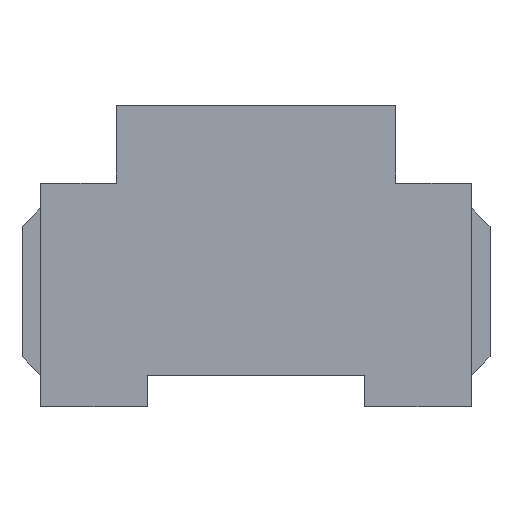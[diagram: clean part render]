
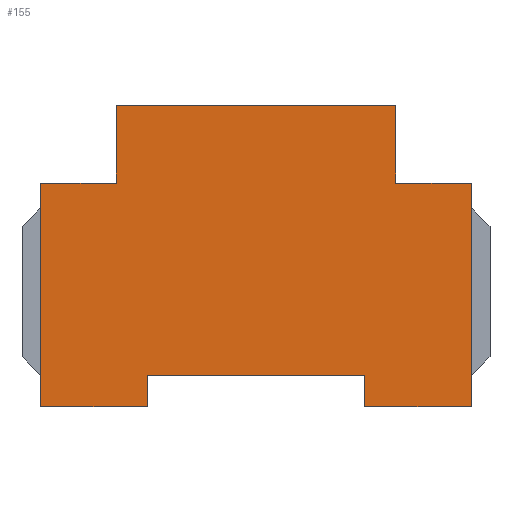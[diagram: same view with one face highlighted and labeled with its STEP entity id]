
A CAD part, left-side view. The second image highlights one B-rep face of the part: STEP entity #155.
In plain terms, the highlighted planar face has unit normal (-1, 0, 0).
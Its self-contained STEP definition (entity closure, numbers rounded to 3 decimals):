
#155=ADVANCED_FACE('',(#318),#319,.T.);
#318=FACE_OUTER_BOUND('',#456,.T.);
#319=PLANE('',#457);
#456=EDGE_LOOP('',(#916,#917,#918,#919,#920,#921,#922,#923,#924,#925,#926,#927));
#457=AXIS2_PLACEMENT_3D('',#928,#929,#930);
#916=ORIENTED_EDGE('',*,*,#1092,.F.);
#917=ORIENTED_EDGE('',*,*,#1118,.F.);
#918=ORIENTED_EDGE('',*,*,#1028,.F.);
#919=ORIENTED_EDGE('',*,*,#1116,.F.);
#920=ORIENTED_EDGE('',*,*,#1113,.F.);
#921=ORIENTED_EDGE('',*,*,#1110,.F.);
#922=ORIENTED_EDGE('',*,*,#1107,.F.);
#923=ORIENTED_EDGE('',*,*,#1104,.F.);
#924=ORIENTED_EDGE('',*,*,#1060,.F.);
#925=ORIENTED_EDGE('',*,*,#1102,.F.);
#926=ORIENTED_EDGE('',*,*,#1099,.F.);
#927=ORIENTED_EDGE('',*,*,#1096,.F.);
#928=CARTESIAN_POINT('',(-7.25,0.,17.836));
#929=DIRECTION('',(-1.0,0.0,0.));
#930=DIRECTION('',(0.,0.0,1.0));
#1028=EDGE_CURVE('',#1236,#1237,#1238,.T.);
#1060=EDGE_CURVE('',#1295,#1296,#1297,.T.);
#1092=EDGE_CURVE('',#1344,#1345,#1346,.T.);
#1096=EDGE_CURVE('',#1345,#1352,#1353,.T.);
#1099=EDGE_CURVE('',#1352,#1357,#1358,.T.);
#1102=EDGE_CURVE('',#1357,#1295,#1362,.T.);
#1104=EDGE_CURVE('',#1296,#1364,#1365,.T.);
#1107=EDGE_CURVE('',#1364,#1369,#1370,.T.);
#1110=EDGE_CURVE('',#1369,#1374,#1375,.T.);
#1113=EDGE_CURVE('',#1374,#1379,#1380,.T.);
#1116=EDGE_CURVE('',#1379,#1236,#1384,.T.);
#1118=EDGE_CURVE('',#1237,#1344,#1386,.T.);
#1236=VERTEX_POINT('',#1520);
#1237=VERTEX_POINT('',#1521);
#1238=LINE('',#1522,#1523);
#1295=VERTEX_POINT('',#1611);
#1296=VERTEX_POINT('',#1612);
#1297=LINE('',#1613,#1614);
#1344=VERTEX_POINT('',#1692);
#1345=VERTEX_POINT('',#1693);
#1346=LINE('',#1694,#1695);
#1352=VERTEX_POINT('',#1704);
#1353=LINE('',#1705,#1706);
#1357=VERTEX_POINT('',#1712);
#1358=LINE('',#1713,#1714);
#1362=LINE('',#1720,#1721);
#1364=VERTEX_POINT('',#1724);
#1365=LINE('',#1725,#1726);
#1369=VERTEX_POINT('',#1732);
#1370=LINE('',#1733,#1734);
#1374=VERTEX_POINT('',#1740);
#1375=LINE('',#1741,#1742);
#1379=VERTEX_POINT('',#1748);
#1380=LINE('',#1749,#1750);
#1384=LINE('',#1756,#1757);
#1386=LINE('',#1760,#1761);
#1520=CARTESIAN_POINT('',(-7.25,-34.7,31.0));
#1521=CARTESIAN_POINT('',(-7.25,-34.7,-5.0));
#1522=CARTESIAN_POINT('',(-7.25,-34.7,-5.0));
#1523=VECTOR('',#1832,1.0);
#1611=CARTESIAN_POINT('',(-7.25,34.7,-5.0));
#1612=CARTESIAN_POINT('',(-7.25,34.7,31.0));
#1613=CARTESIAN_POINT('',(-7.25,34.7,-5.0));
#1614=VECTOR('',#1864,1.0);
#1692=CARTESIAN_POINT('',(-7.25,-17.5,-5.0));
#1693=CARTESIAN_POINT('',(-7.25,-17.5,0.));
#1694=CARTESIAN_POINT('',(-7.25,-17.5,-5.0));
#1695=VECTOR('',#1896,1.0);
#1704=CARTESIAN_POINT('',(-7.25,17.5,0.));
#1705=CARTESIAN_POINT('',(-7.25,-17.5,0.));
#1706=VECTOR('',#1900,1.0);
#1712=CARTESIAN_POINT('',(-7.25,17.5,-5.0));
#1713=CARTESIAN_POINT('',(-7.25,17.5,-5.0));
#1714=VECTOR('',#1903,1.0);
#1720=CARTESIAN_POINT('',(-7.25,17.5,-5.0));
#1721=VECTOR('',#1906,1.0);
#1724=CARTESIAN_POINT('',(-7.25,22.5,31.0));
#1725=CARTESIAN_POINT('',(-7.25,22.5,31.0));
#1726=VECTOR('',#1908,1.0);
#1732=CARTESIAN_POINT('',(-7.25,22.5,43.5));
#1733=CARTESIAN_POINT('',(-7.25,22.5,31.0));
#1734=VECTOR('',#1911,1.0);
#1740=CARTESIAN_POINT('',(-7.25,-22.5,43.5));
#1741=CARTESIAN_POINT('',(-7.25,-22.5,43.5));
#1742=VECTOR('',#1914,1.0);
#1748=CARTESIAN_POINT('',(-7.25,-22.5,31.0));
#1749=CARTESIAN_POINT('',(-7.25,-22.5,31.0));
#1750=VECTOR('',#1917,1.0);
#1756=CARTESIAN_POINT('',(-7.25,-34.7,31.0));
#1757=VECTOR('',#1920,1.0);
#1760=CARTESIAN_POINT('',(-7.25,-34.7,-5.0));
#1761=VECTOR('',#1922,1.0);
#1832=DIRECTION('',(0.,0.,-1.0));
#1864=DIRECTION('',(0.,0.0,1.0));
#1896=DIRECTION('',(0.,0.0,1.0));
#1900=DIRECTION('',(0.,1.0,0.));
#1903=DIRECTION('',(0.,-0.0,-1.0));
#1906=DIRECTION('',(0.0,1.0,0.0));
#1908=DIRECTION('',(0.0,-1.0,-0.0));
#1911=DIRECTION('',(0.,0.,1.0));
#1914=DIRECTION('',(0.0,-1.0,-0.0));
#1917=DIRECTION('',(0.,-0.0,-1.0));
#1920=DIRECTION('',(0.0,-1.0,-0.0));
#1922=DIRECTION('',(0.,1.0,0.));
